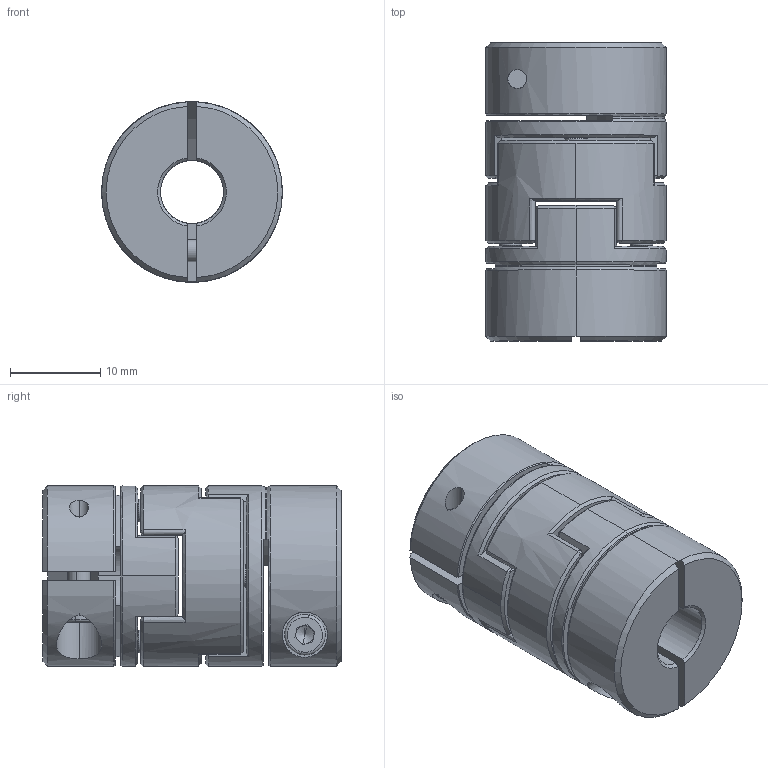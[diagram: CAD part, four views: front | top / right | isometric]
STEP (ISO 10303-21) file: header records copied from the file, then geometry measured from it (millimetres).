
FILE_DESCRIPTION (( 'STEP AP203' ), '1' );
FILE_NAME ('LZ-B-D20L33-7-7.STEP', '2021-10-29T05:39:32', ( '' ), ( '' ), 'SwSTEP 2.0', 'SolidWorks 2018', '' );
FILE_SCHEMA (( 'CONFIG_CONTROL_DESIGN' ));
Length unit declared in the file: millimetre
Products named in the file (1): LZ-B-D20L33-7-7
Bounding box: 20 x 33 x 20 mm (x, y, z)
Volume: 8282.3 mm3; surface area: 6108.6 mm2
Topology: 3 solids, 3 shells, 248 faces, 632 edges, 400 vertices
Faces by surface type: plane 112, cylinder 64, cone 42, bspline 26, torus 4
Entity records: 10263 total; most frequent: CARTESIAN_POINT 4455, ORIENTED_EDGE 1256, DIRECTION 1116, EDGE_CURVE 628, AXIS2_PLACEMENT_3D 431, VERTEX_POINT 400, EDGE_LOOP 276, LINE 254
